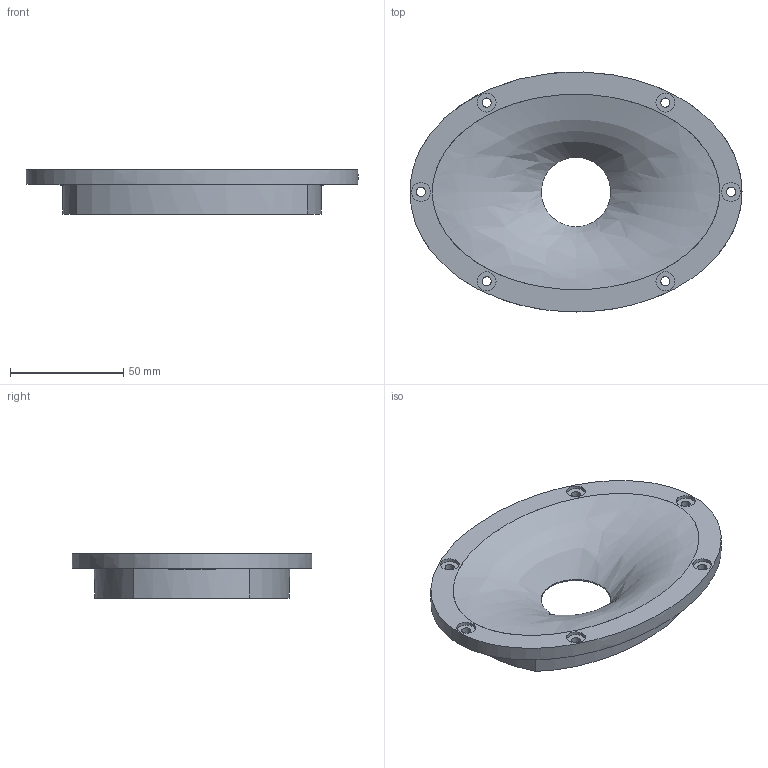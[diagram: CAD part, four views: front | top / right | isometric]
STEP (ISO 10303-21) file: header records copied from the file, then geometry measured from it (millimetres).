
FILE_DESCRIPTION(/* description */ (''),/* implementation_level */ '2;1');
FILE_NAME(/* name */ 'C:/Users/Admin/Desktop/templates/T25B/5/5 68vB.step',/* time_stamp */ '2022-06-07T19:16:14-06:00',/* author */ (''),/* organization */ (''),/* preprocessor_version */ 'ST-DEVELOPER v19',/* originating_system */ 'Autodesk Translation Framework v11.7.0.108',/* authorisation */ '');
FILE_SCHEMA (('AUTOMOTIVE_DESIGN { 1 0 10303 214 3 1 1 }'));
Length unit declared in the file: inch
Products named in the file (1): 5x.75 A 68 T25
Bounding box: 146.81 x 106.12 x 19.56 mm (x, y, z)
Volume: 134241.3 mm3; surface area: 31986 mm2
Topology: 1 solids, 1 shells, 293 faces, 709 edges, 444 vertices
Faces by surface type: bspline 181, plane 94, cylinder 18
Full cylindrical faces by diameter (mm): 3.302 x2, 4.064 x6, 8.382 x6, 67.31 x1, 68.834 x1
Entity records: 12592 total; most frequent: CARTESIAN_POINT 6898, ORIENTED_EDGE 1418, EDGE_CURVE 709, DIRECTION 637, VERTEX_POINT 444, LINE 339, VECTOR 339, B_SPLINE_CURVE_WITH_KNOTS 334
